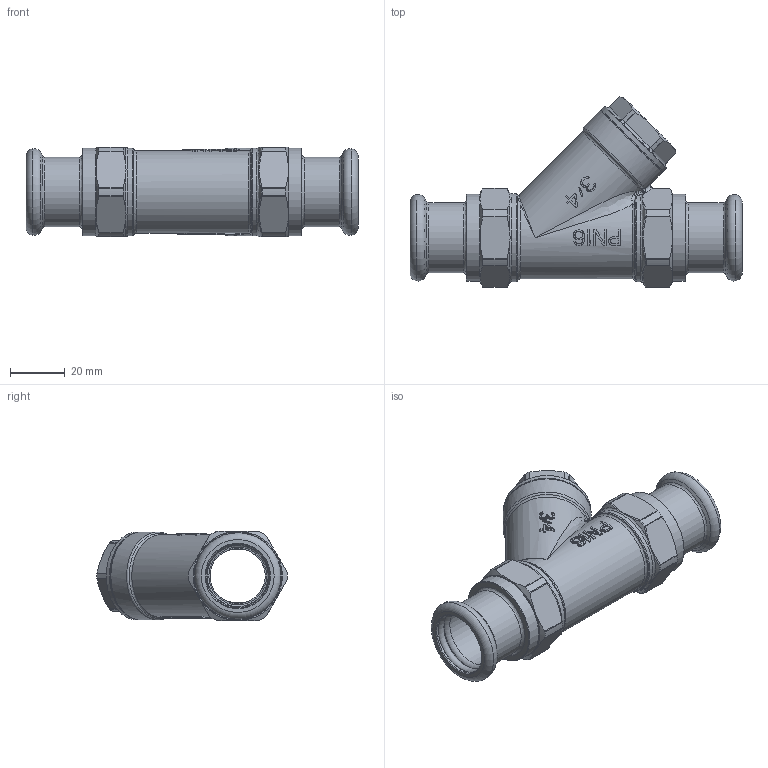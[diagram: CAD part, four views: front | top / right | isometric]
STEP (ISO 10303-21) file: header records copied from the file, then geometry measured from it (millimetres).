
FILE_DESCRIPTION((''),'2;1');
FILE_NAME('P:\Fastrack\53972_CRANE 3D\Press Fit\D298\D298-PF_22MM\D298-PF_22MM.stp','2012-02-03T14:40:30',('dcole'),(''),'Autodesk Inventor 2008','Autodesk Inventor 2008','');
FILE_SCHEMA(('AUTOMOTIVE_DESIGN { 1 0 10303 214 1 1 1 1 }'));
Length unit declared in the file: millimetre
Products named in the file (1): D298-PF_22MM
Bounding box: 120.8 x 69.27 x 32.5 mm (x, y, z)
Volume: 44711.6 mm3; surface area: 30847.4 mm2
Topology: 1 solids, 2 shells, 637 faces, 1631 edges, 1029 vertices
Faces by surface type: bspline 250, plane 164, cylinder 111, cone 54, torus 42, sphere 16
Full cylindrical faces by diameter (mm): 1 x2, 18.5 x1, 21.2 x1, 22.2 x2, 23.2 x2, 24.11 x2, 25.2 x2, 25.4 x3, 27 x1, 27.4 x1, 27.45 x2, 31.5 x1, 31.8 x2, 32 x3
Entity records: 28402 total; most frequent: CARTESIAN_POINT 13658, ORIENTED_EDGE 3084, DIRECTION 2620, EDGE_CURVE 1542, AXIS2_PLACEMENT_3D 1038, VERTEX_POINT 1014, EDGE_LOOP 742, CIRCLE 647
